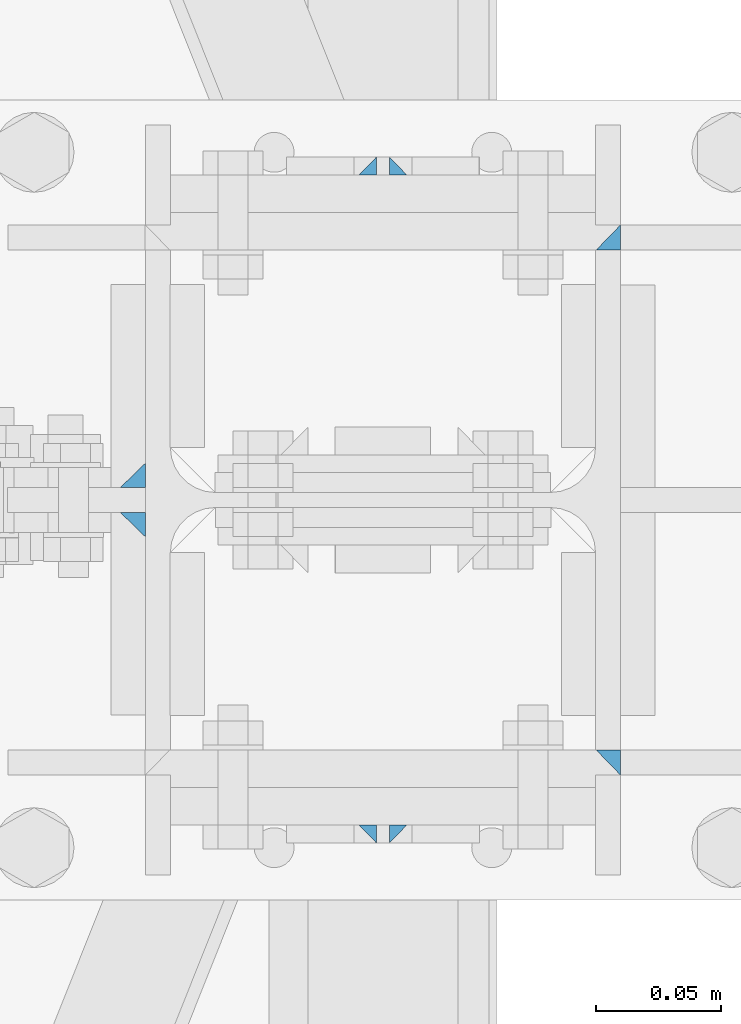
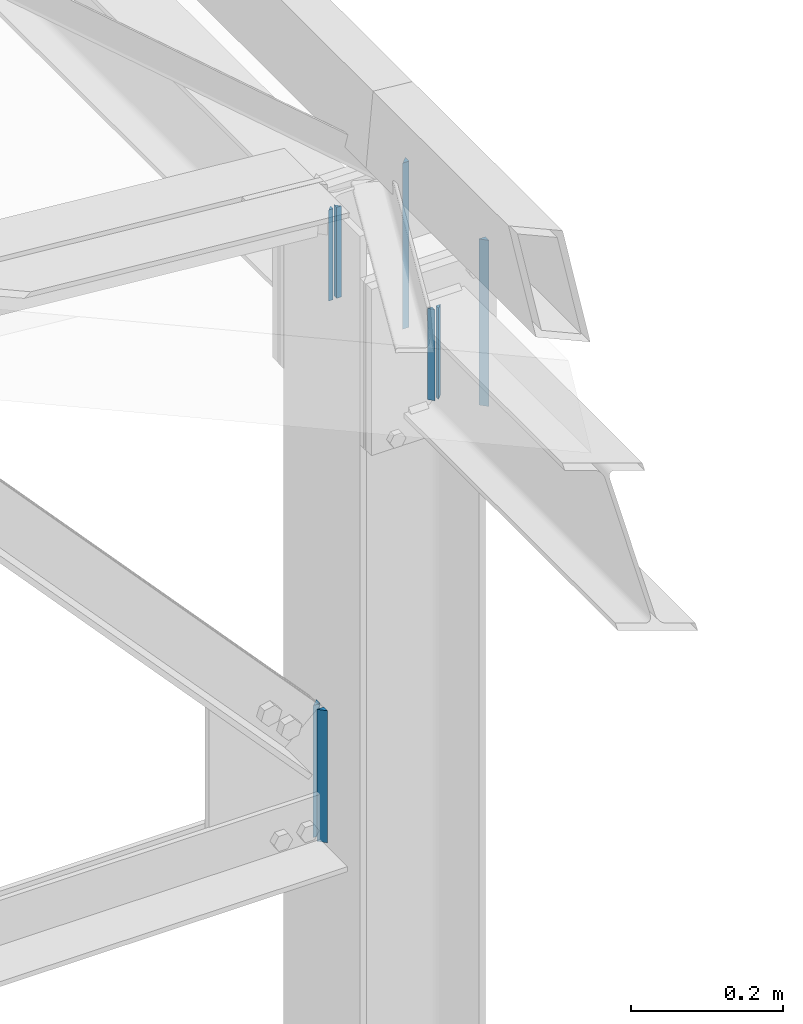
# One storey, part 45 of 251: 12 fasteners.
"""IFC4 building model written with IfcOpenShell, lengths in metres."""

from ifc_helpers import new_model, si_unit, frame, origin_with_axes, place, context, project, spatial, polyline, outline, extrude, type_object, element, save


model = new_model("IFC4")

# Units and contexts
model_context = context("Model", 3, precision=1e-05, world=origin_with_axes())
ifc_project = project(units=[si_unit("LENGTHUNIT", "METRE"), si_unit("AREAUNIT", "SQUARE_METRE"), si_unit("VOLUMEUNIT", "CUBIC_METRE"), si_unit("MASSUNIT", "GRAM", prefix="KILO"), si_unit("TIMEUNIT", "SECOND"), si_unit("PLANEANGLEUNIT", "RADIAN"), si_unit("SOLIDANGLEUNIT", "STERADIAN"), si_unit("THERMODYNAMICTEMPERATUREUNIT", "DEGREE_CELSIUS")], contexts=[model_context])

# Site, building, storey
placement_1 = place(None, origin_with_axes())
site = spatial("IfcSite", under=ifc_project, at=placement_1, Name="Italia", CompositionType="ELEMENT")
building = spatial("IfcBuilding", under=site, at=placement_1, Name="Deposito", CompositionType="ELEMENT")
storey = spatial("IfcBuildingStorey", under=building, at=placement_1, Name="Storey 0", CompositionType="ELEMENT", Elevation=0.0)

# Fasteners
fastener_type_1 = type_object("IfcFastenerType", Name="Collegamenti -064_-065 -065_-064 -065_-066 -066_-065 -066_-067 -067_-066 -067_-068 -068_-067", PredefinedType="WELD")
placement_2 = place(placement_1, origin_with_axes())
fastener_1_placement = place(placement_2, origin_with_axes())
element("IfcFastener", 1, at=fastener_1_placement, inside=storey, type_object=fastener_type_1, Name="Collegamenti -064_-065 -065_-064 -065_-066 -066_-065 -066_-067 -067_-066 -067_-068 -068_-067", context=model_context, shape_type="SweptSolid", body=[
    extrude(outline(polyline([(0.0, 0.0), (-0.00717354, 0.00695801), (0.0, 0.00695801), (0.0, 0.0)])), frame((20.0096, 14.8701, 5.72695), z_axis=(0.0, 0.0, 1.0), x_axis=(0.0, 1.0, 0.0)), (0.0, 0.0, 1.0), 0.146099),
])
fastener_type_2 = type_object("IfcFastenerType", Name="Collegamenti -064_-065 -065_-064 -065_-066 -066_-065 -066_-067 -067_-066 -067_-068 -068_-067", PredefinedType="WELD")
fastener_2_placement = place(placement_2, origin_with_axes())
element("IfcFastener", 2, at=fastener_2_placement, inside=storey, type_object=fastener_type_2, Name="Collegamenti -064_-065 -065_-064 -065_-066 -066_-065 -066_-067 -067_-066 -067_-068 -068_-067", context=model_context, shape_type="SweptSolid", body=[
    extrude(outline(polyline([(0.0, 0.0), (-0.00717354, 0.00695801), (0.0, 0.00695801), (0.0, 0.0)])), frame((19.9904, 14.8701, 5.87305), z_axis=(0.0, 0.0, -1.0), x_axis=(0.0, 1.0, 0.0)), (0.0, 0.0, 1.0), 0.146099),
])
fastener_type_3 = type_object("IfcFastenerType", Name="Collegamenti -064_-065 -065_-064 -065_-066 -066_-065 -066_-067 -067_-066 -067_-068 -068_-067", PredefinedType="WELD")
fastener_3_placement = place(placement_2, origin_with_axes())
element("IfcFastener", 3, at=fastener_3_placement, inside=storey, type_object=fastener_type_3, Name="Collegamenti -064_-065 -065_-064 -065_-066 -066_-065 -066_-067 -067_-066 -067_-068 -068_-067", context=model_context, shape_type="SweptSolid", body=[
    extrude(outline(polyline([(0.0, 0.0), (-0.00717354, 0.00695801), (0.0, 0.00695801), (0.0, 0.0)])), frame((20.0096, 14.8701, 5.72695), z_axis=(0.0, 0.0, 1.0), x_axis=(0.0, 1.0, 0.0)), (0.0, 0.0, 1.0), 0.146099),
])
fastener_type_4 = type_object("IfcFastenerType", Name="Collegamenti -064_-065 -065_-064 -065_-066 -066_-065 -066_-067 -067_-066 -067_-068 -068_-067", PredefinedType="WELD")
fastener_4_placement = place(placement_2, origin_with_axes())
element("IfcFastener", 4, at=fastener_4_placement, inside=storey, type_object=fastener_type_4, Name="Collegamenti -064_-065 -065_-064 -065_-066 -066_-065 -066_-067 -067_-066 -067_-068 -068_-067", context=model_context, shape_type="SweptSolid", body=[
    extrude(outline(polyline([(0.0, 0.0), (-0.00717354, 0.00695801), (0.0, 0.00695801), (0.0, 0.0)])), frame((19.9904, 14.8701, 5.87305), z_axis=(0.0, 0.0, -1.0), x_axis=(0.0, 1.0, 0.0)), (0.0, 0.0, 1.0), 0.146099),
])
fastener_type_5 = type_object("IfcFastenerType", Name="Collegamenti -064_-065 -065_-064 -065_-066 -066_-065 -066_-067 -067_-066 -067_-068 -068_-067", PredefinedType="WELD")
fastener_5_placement = place(placement_2, origin_with_axes())
element("IfcFastener", 5, at=fastener_5_placement, inside=storey, type_object=fastener_type_5, Name="Collegamenti -064_-065 -065_-064 -065_-066 -066_-065 -066_-067 -067_-066 -067_-068 -068_-067", context=model_context, shape_type="SweptSolid", body=[
    extrude(outline(polyline([(0.0, 0.0), (-0.0101738, 0.00986862), (0.0, 0.00986862), (0.0, 0.0)])), frame((20.0852, 14.9001, 5.93305), z_axis=(0.0, 0.0, -1.0), x_axis=(0.0, 1.0, 0.0)), (0.0, 0.0, 1.0), 0.2661),
])
fastener_type_6 = type_object("IfcFastenerType", Name="Collegamenti -064_-065 -065_-064 -065_-066 -066_-065 -066_-067 -067_-066 -067_-068 -068_-067", PredefinedType="WELD")
fastener_6_placement = place(placement_2, origin_with_axes())
element("IfcFastener", 6, at=fastener_6_placement, inside=storey, type_object=fastener_type_6, Name="Collegamenti -064_-065 -065_-064 -065_-066 -066_-065 -066_-067 -067_-066 -067_-068 -068_-067", context=model_context, shape_type="SweptSolid", body=[
    extrude(outline(polyline([(0.0, 0.0), (0.00717354, -0.00695801), (0.0, -0.00695801), (0.0, 0.0)])), frame((19.9904, 15.1299, 5.72695), z_axis=(0.0, 0.0, 1.0), x_axis=(0.0, 1.0, 0.0)), (0.0, 0.0, 1.0), 0.146099),
])
fastener_type_7 = type_object("IfcFastenerType", Name="Collegamenti -064_-065 -065_-064 -065_-066 -066_-065 -066_-067 -067_-066 -067_-068 -068_-067", PredefinedType="WELD")
fastener_7_placement = place(placement_2, origin_with_axes())
element("IfcFastener", 7, at=fastener_7_placement, inside=storey, type_object=fastener_type_7, Name="Collegamenti -064_-065 -065_-064 -065_-066 -066_-065 -066_-067 -067_-066 -067_-068 -068_-067", context=model_context, shape_type="SweptSolid", body=[
    extrude(outline(polyline([(0.0, 0.0), (0.00717354, -0.00695801), (0.0, -0.00695801), (0.0, 0.0)])), frame((20.0096, 15.1299, 5.87305), z_axis=(0.0, 0.0, -1.0), x_axis=(0.0, 1.0, 0.0)), (0.0, 0.0, 1.0), 0.146099),
])
fastener_type_8 = type_object("IfcFastenerType", Name="Collegamenti -064_-065 -065_-064 -065_-066 -066_-065 -066_-067 -067_-066 -067_-068 -068_-067", PredefinedType="WELD")
fastener_8_placement = place(placement_2, origin_with_axes())
element("IfcFastener", 8, at=fastener_8_placement, inside=storey, type_object=fastener_type_8, Name="Collegamenti -064_-065 -065_-064 -065_-066 -066_-065 -066_-067 -067_-066 -067_-068 -068_-067", context=model_context, shape_type="SweptSolid", body=[
    extrude(outline(polyline([(0.0, 0.0), (0.00717354, -0.00695801), (0.0, -0.00695801), (0.0, 0.0)])), frame((19.9904, 15.1299, 5.72695), z_axis=(0.0, 0.0, 1.0), x_axis=(0.0, 1.0, 0.0)), (0.0, 0.0, 1.0), 0.146099),
])
fastener_type_9 = type_object("IfcFastenerType", Name="Collegamenti -064_-065 -065_-064 -065_-066 -066_-065 -066_-067 -067_-066 -067_-068 -068_-067", PredefinedType="WELD")
fastener_9_placement = place(placement_2, origin_with_axes())
element("IfcFastener", 9, at=fastener_9_placement, inside=storey, type_object=fastener_type_9, Name="Collegamenti -064_-065 -065_-064 -065_-066 -066_-065 -066_-067 -067_-066 -067_-068 -068_-067", context=model_context, shape_type="SweptSolid", body=[
    extrude(outline(polyline([(0.0, 0.0), (0.00717354, -0.00695801), (0.0, -0.00695801), (0.0, 0.0)])), frame((20.0096, 15.1299, 5.87305), z_axis=(0.0, 0.0, -1.0), x_axis=(0.0, 1.0, 0.0)), (0.0, 0.0, 1.0), 0.146099),
])
fastener_type_10 = type_object("IfcFastenerType", Name="Collegamenti -064_-065 -065_-064 -065_-066 -066_-065 -066_-067 -067_-066 -067_-068 -068_-067", PredefinedType="WELD")
fastener_10_placement = place(placement_2, origin_with_axes())
element("IfcFastener", 10, at=fastener_10_placement, inside=storey, type_object=fastener_type_10, Name="Collegamenti -064_-065 -065_-064 -065_-066 -066_-065 -066_-067 -067_-066 -067_-068 -068_-067", context=model_context, shape_type="SweptSolid", body=[
    extrude(outline(polyline([(0.0, 0.0), (0.0101738, -0.00986862), (0.0, -0.00986862), (0.0, 0.0)])), frame((20.0852, 15.0999, 5.66695), z_axis=(0.0, 0.0, 1.0), x_axis=(0.0, 1.0, 0.0)), (0.0, 0.0, 1.0), 0.2661),
])
fastener_type_11 = type_object("IfcFastenerType", Name="Reticolare 5", PredefinedType="WELD")
fastener_11_placement = place(placement_2, origin_with_axes())
element("IfcFastener", 11, at=fastener_11_placement, inside=storey, type_object=fastener_type_11, Name="Reticolare 5", context=model_context, shape_type="SweptSolid", body=[
    extrude(outline(polyline([(0.0, 0.0), (-0.00986862, -0.0101738), (-0.00986862, 0.0), (0.0, 0.0)])), frame((19.9051, 15.0148, 5.18881), z_axis=(0.0, 0.0, -1.0), x_axis=(0.0, 1.0, 0.0)), (0.0, 0.0, 1.0), 0.211377),
])
fastener_type_12 = type_object("IfcFastenerType", Name="Reticolare 5", PredefinedType="WELD")
fastener_12_placement = place(placement_2, origin_with_axes())
element("IfcFastener", 12, at=fastener_12_placement, inside=storey, type_object=fastener_type_12, Name="Reticolare 5", context=model_context, shape_type="SweptSolid", body=[
    extrude(outline(polyline([(0.0, 0.0), (0.00986862, 0.0101738), (0.00986862, 0.0), (0.0, 0.0)])), frame((19.9051, 14.9852, 4.97743), z_axis=(0.0, 0.0, 1.0), x_axis=(0.0, 1.0, 0.0)), (0.0, 0.0, 1.0), 0.211377),
])

save(model, "model.ifc")
